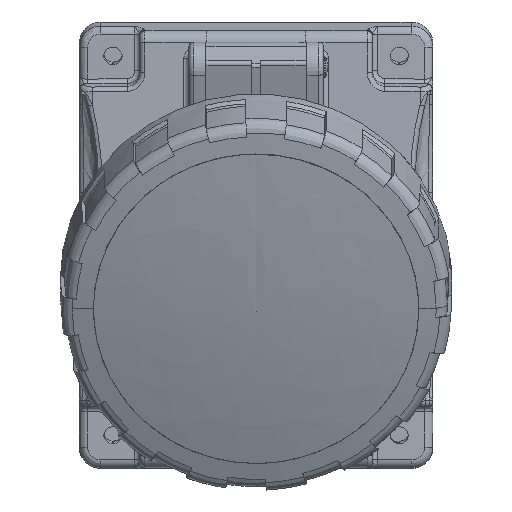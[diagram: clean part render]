
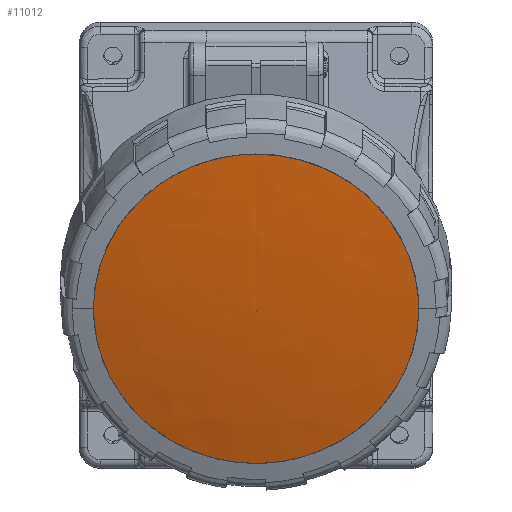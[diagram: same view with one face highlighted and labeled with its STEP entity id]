
A CAD part, front view. The second image highlights one B-rep face of the part: STEP entity #11012.
In plain terms, the highlighted free-form (B-spline) face has degree [2, 2] with [9, 3] control points.
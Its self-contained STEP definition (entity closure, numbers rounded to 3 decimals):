
#1246=VERTEX_LOOP('',#24041);
#1554=FACE_BOUND('',#1246,.T.);
#1555=FACE_BOUND('',#13309,.T.);
#2397=(
BOUNDED_SURFACE()
B_SPLINE_SURFACE(2,2,((#49402,#49403,#49404),(#49405,#49406,#49407),(#49408,
#49409,#49410),(#49411,#49412,#49413),(#49414,#49415,#49416),(#49417,#49418,
#49419),(#49420,#49421,#49422),(#49423,#49424,#49425),(#49426,#49427,#49428)),
 .UNSPECIFIED.,.T.,.F.,.F.)
B_SPLINE_SURFACE_WITH_KNOTS((1,2,2,2,2,2,1),(3,3),(-0.25,0.,0.25,0.5,0.75,
1.,1.25),(0.,1.),.UNSPECIFIED.)
GEOMETRIC_REPRESENTATION_ITEM()
RATIONAL_B_SPLINE_SURFACE(((1.,0.998,1.),(0.707,
0.706,0.707),(1.,0.998,1.),(0.707,
0.706,0.707),(1.,0.998,1.),(0.707,
0.706,0.707),(1.,0.998,1.),(0.707,
0.706,0.707),(1.,0.998,1.)))
REPRESENTATION_ITEM('')
SURFACE()
);
#11012=ADVANCED_FACE('',(#1554,#1555),#2397,.F.);
#13309=EDGE_LOOP('',(#18822));
#18822=ORIENTED_EDGE('',*,*,#27550,.F.);
#24041=VERTEX_POINT('',#49350);
#24042=VERTEX_POINT('',#49401);
#27550=EDGE_CURVE('',#24042,#24042,#30787,.T.);
#30787=B_SPLINE_CURVE_WITH_KNOTS('',3,(#49351,#49352,#49353,#49354,#49355,
#49356,#49357,#49358,#49359,#49360,#49361,#49362,#49363,#49364,#49365,#49366,
#49367,#49368,#49369,#49370,#49371,#49372,#49373,#49374,#49375,#49376,#49377,
#49378,#49379,#49380,#49381,#49382,#49383,#49384,#49385,#49386,#49387,#49388,
#49389,#49390,#49391,#49392,#49393,#49394,#49395,#49396,#49397,#49398,#49399,
#49400),.UNSPECIFIED.,.T.,.F.,(2,2,2,2,2,2,2,2,2,2,2,2,2,2,2,2,2,2,2,2,
2,2,2,2,2,2,2),(-0.062,0.,0.031,0.063,
0.094,0.125,0.188,0.25,0.281,0.313,
0.344,0.375,0.438,0.5,
0.531,0.563,0.594,0.625,0.688,0.75,0.781,0.813,0.844,
0.875,0.938,1.,1.031),.UNSPECIFIED.);
#49350=CARTESIAN_POINT('',(-0.005,-143.772,-26.655));
#49351=CARTESIAN_POINT('',(5.095,-129.814,-62.706));
#49352=CARTESIAN_POINT('',(-2.555,-129.814,-62.706));
#49353=CARTESIAN_POINT('',(-5.062,-129.891,-62.468));
#49354=CARTESIAN_POINT('',(-9.995,-130.194,-61.535));
#49355=CARTESIAN_POINT('',(-12.446,-130.423,-60.83));
#49356=CARTESIAN_POINT('',(-17.12,-131.022,-58.987));
#49357=CARTESIAN_POINT('',(-19.337,-131.388,-57.86));
#49358=CARTESIAN_POINT('',(-23.533,-132.254,-55.196));
#49359=CARTESIAN_POINT('',(-25.52,-132.757,-53.646));
#49360=CARTESIAN_POINT('',(-30.861,-134.408,-48.566));
#49361=CARTESIAN_POINT('',(-33.737,-135.738,-44.471));
#49362=CARTESIAN_POINT('',(-37.588,-138.609,-35.638));
#49363=CARTESIAN_POINT('',(-38.602,-140.178,-30.807));
#49364=CARTESIAN_POINT('',(-38.607,-142.512,-23.626));
#49365=CARTESIAN_POINT('',(-38.357,-143.302,-21.194));
#49366=CARTESIAN_POINT('',(-37.373,-144.831,-16.486));
#49367=CARTESIAN_POINT('',(-36.645,-145.575,-14.198));
#49368=CARTESIAN_POINT('',(-34.714,-147.019,-9.753));
#49369=CARTESIAN_POINT('',(-33.506,-147.718,-7.603));
#49370=CARTESIAN_POINT('',(-30.714,-149.01,-3.624));
#49371=CARTESIAN_POINT('',(-29.119,-149.613,-1.77));
#49372=CARTESIAN_POINT('',(-23.72,-151.284,3.373));
#49373=CARTESIAN_POINT('',(-19.472,-152.16,6.069));
#49374=CARTESIAN_POINT('',(-10.118,-153.359,9.759));
#49375=CARTESIAN_POINT('',(-5.105,-153.67,10.716));
#49376=CARTESIAN_POINT('',(2.545,-153.67,10.716));
#49377=CARTESIAN_POINT('',(5.052,-153.593,10.478));
#49378=CARTESIAN_POINT('',(9.985,-153.29,9.546));
#49379=CARTESIAN_POINT('',(12.436,-153.06,8.84));
#49380=CARTESIAN_POINT('',(17.11,-152.462,6.998));
#49381=CARTESIAN_POINT('',(19.327,-152.095,5.87));
#49382=CARTESIAN_POINT('',(23.523,-151.23,3.207));
#49383=CARTESIAN_POINT('',(25.509,-150.726,1.657));
#49384=CARTESIAN_POINT('',(30.85,-149.076,-3.423));
#49385=CARTESIAN_POINT('',(33.726,-147.745,-7.518));
#49386=CARTESIAN_POINT('',(37.577,-144.875,-16.352));
#49387=CARTESIAN_POINT('',(38.591,-143.306,-21.182));
#49388=CARTESIAN_POINT('',(38.597,-140.972,-28.364));
#49389=CARTESIAN_POINT('',(38.347,-140.182,-30.795));
#49390=CARTESIAN_POINT('',(37.363,-138.652,-35.503));
#49391=CARTESIAN_POINT('',(36.635,-137.909,-37.792));
#49392=CARTESIAN_POINT('',(34.704,-136.465,-42.236));
#49393=CARTESIAN_POINT('',(33.496,-135.766,-44.386));
#49394=CARTESIAN_POINT('',(30.703,-134.473,-48.365));
#49395=CARTESIAN_POINT('',(29.109,-133.871,-50.22));
#49396=CARTESIAN_POINT('',(23.709,-132.2,-55.363));
#49397=CARTESIAN_POINT('',(19.461,-131.324,-58.059));
#49398=CARTESIAN_POINT('',(10.108,-130.125,-61.749));
#49399=CARTESIAN_POINT('',(5.095,-129.814,-62.706));
#49400=CARTESIAN_POINT('',(-2.555,-129.814,-62.706));
#49401=CARTESIAN_POINT('',(-0.005,-129.814,-62.706));
#49402=CARTESIAN_POINT('',(-0.005,-153.67,10.716));
#49403=CARTESIAN_POINT('',(-0.005,-149.755,-8.243));
#49404=CARTESIAN_POINT('',(-0.005,-143.772,-26.655));
#49405=CARTESIAN_POINT('',(38.595,-153.67,10.716));
#49406=CARTESIAN_POINT('',(19.354,-149.755,-8.243));
#49407=CARTESIAN_POINT('',(-0.005,-143.772,-26.655));
#49408=CARTESIAN_POINT('',(38.595,-141.742,-25.995));
#49409=CARTESIAN_POINT('',(19.354,-143.772,-26.655));
#49410=CARTESIAN_POINT('',(-0.005,-143.772,-26.655));
#49411=CARTESIAN_POINT('',(38.595,-129.814,-62.706));
#49412=CARTESIAN_POINT('',(19.354,-137.79,-45.066));
#49413=CARTESIAN_POINT('',(-0.005,-143.772,-26.655));
#49414=CARTESIAN_POINT('',(-0.005,-129.814,-62.706));
#49415=CARTESIAN_POINT('',(-0.005,-137.79,-45.066));
#49416=CARTESIAN_POINT('',(-0.005,-143.772,-26.655));
#49417=CARTESIAN_POINT('',(-38.605,-129.814,-62.706));
#49418=CARTESIAN_POINT('',(-19.364,-137.79,-45.066));
#49419=CARTESIAN_POINT('',(-0.005,-143.772,-26.655));
#49420=CARTESIAN_POINT('',(-38.605,-141.742,-25.995));
#49421=CARTESIAN_POINT('',(-19.364,-143.772,-26.655));
#49422=CARTESIAN_POINT('',(-0.005,-143.772,-26.655));
#49423=CARTESIAN_POINT('',(-38.605,-153.67,10.716));
#49424=CARTESIAN_POINT('',(-19.364,-149.755,-8.243));
#49425=CARTESIAN_POINT('',(-0.005,-143.772,-26.655));
#49426=CARTESIAN_POINT('',(-0.005,-153.67,10.716));
#49427=CARTESIAN_POINT('',(-0.005,-149.755,-8.243));
#49428=CARTESIAN_POINT('',(-0.005,-143.772,-26.655));
